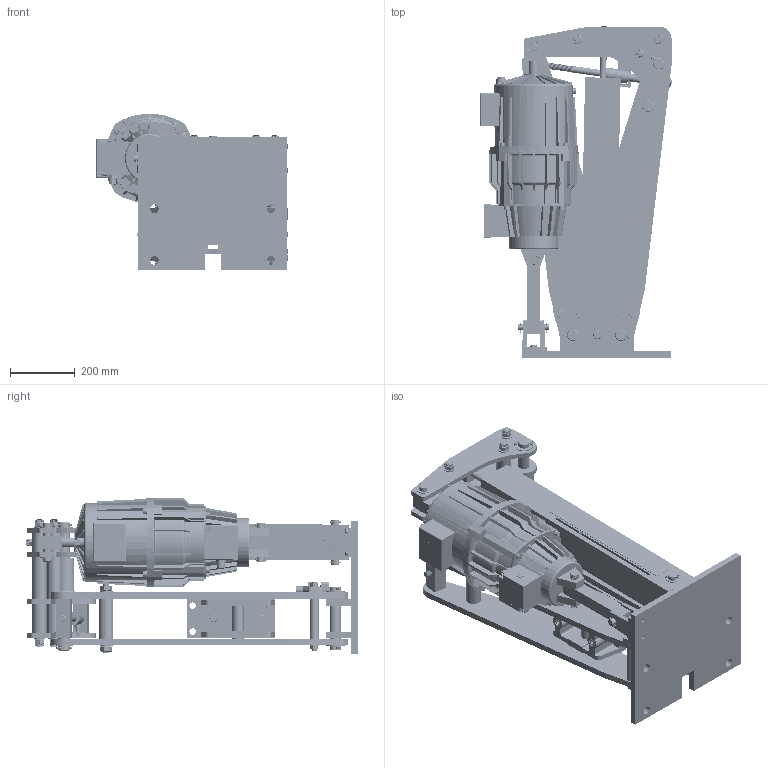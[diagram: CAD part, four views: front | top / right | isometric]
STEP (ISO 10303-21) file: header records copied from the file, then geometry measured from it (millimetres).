
FILE_DESCRIPTION((''),'2;1');
FILE_NAME('DS_370_FEX-45XL-30_ASM','2020-06-04T',('BOLS'),(''),'CREO PARAMETRIC BY PTC INC, 2018360','CREO PARAMETRIC BY PTC INC, 2018360','');
FILE_SCHEMA(('CONFIG_CONTROL_DESIGN'));
Products named in the file (86): DS370FEX-45XL-30_1_1_1; DS370FEX-45XL-30_1_2_1; DS370FEX-45XL-30_1_3_1; DS370FEX-45XL-30_1_4_1; DS370FEX-45XL-30_1_5_1; DS370FEX-45XL-30_1_6_1; DS370FEX-45XL-30_1_7_1; DS370FEX-45XL-30_1_8_1; DS370FEX-45XL-30_1_9_1; DS370FEX-45XL-30_1_10_1; DS370FEX-45XL-30_1_11_1; DS370FEX-45XL-30_1_12_1; DS370FEX-45XL-30_1_13_1; DS370FEX-45XL-30_1_14_1; DS370FEX-45XL-30_1_15_1; DS370FEX-45XL-30_1_16_1; DS370FEX-45XL-30_1_17_1; DS370FEX-45XL-30_1_18_1; DS370FEX-45XL-30_1_19_1; DS370FEX-45XL-30_1_20_1; DS370FEX-45XL-30_1_21_1; DS370FEX-45XL-30_1_22_1; DS370FEX-45XL-30_1_23_1; DS370FEX-45XL-30_1_24_1; DS370FEX-45XL-30_1_25_1; DS370FEX-45XL-30_1_26_1; DS370FEX-45XL-30_1_27_1; DS370FEX-45XL-30_1_28_1; DS370FEX-45XL-30_1_29_1; DS370FEX-45XL-30_1_30_1; DS370FEX-45XL-30_1_31_1; DS370FEX-45XL-30_1_32_1; DS370FEX-45XL-30_1_33_1; DS370FEX-45XL-30_1_34_1; DS370FEX-45XL-30_1_35_1; DS370FEX-45XL-30_1_36_1; DS370FEX-45XL-30_1_37_1; DS370FEX-45XL-30_1_38_1; DS370FEX-45XL-30_1_39_1; DS370FEX-45XL-30_1_40_1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
Assembly tree (85 placements, depth 4):
  DS_370_FEX-45XL-30_ASM
    DS370FEX-45XL-30_ASM_1_ASM
      DS370FEX-45XL-30_1_ASM_1_ASM
        DS370FEX-45XL-30_1_1_1
        DS370FEX-45XL-30_1_2_1
        DS370FEX-45XL-30_1_3_1
        DS370FEX-45XL-30_1_4_1
        DS370FEX-45XL-30_1_5_1
        DS370FEX-45XL-30_1_6_1
        DS370FEX-45XL-30_1_7_1
        DS370FEX-45XL-30_1_8_1
        DS370FEX-45XL-30_1_9_1
        DS370FEX-45XL-30_1_10_1
        DS370FEX-45XL-30_1_11_1
        DS370FEX-45XL-30_1_12_1
        DS370FEX-45XL-30_1_13_1
        DS370FEX-45XL-30_1_14_1
        DS370FEX-45XL-30_1_15_1
        DS370FEX-45XL-30_1_16_1
        DS370FEX-45XL-30_1_17_1
        DS370FEX-45XL-30_1_18_1
        DS370FEX-45XL-30_1_19_1
        DS370FEX-45XL-30_1_20_1
        DS370FEX-45XL-30_1_21_1
        DS370FEX-45XL-30_1_22_1
        DS370FEX-45XL-30_1_23_1
        DS370FEX-45XL-30_1_24_1
        DS370FEX-45XL-30_1_25_1
        DS370FEX-45XL-30_1_26_1
        DS370FEX-45XL-30_1_27_1
        DS370FEX-45XL-30_1_28_1
        DS370FEX-45XL-30_1_29_1
        DS370FEX-45XL-30_1_30_1
        DS370FEX-45XL-30_1_31_1
        DS370FEX-45XL-30_1_32_1
        DS370FEX-45XL-30_1_33_1
        DS370FEX-45XL-30_1_34_1
        DS370FEX-45XL-30_1_35_1
        DS370FEX-45XL-30_1_36_1
        DS370FEX-45XL-30_1_37_1
        DS370FEX-45XL-30_1_38_1
        DS370FEX-45XL-30_1_39_1
        DS370FEX-45XL-30_1_40_1
        DS370FEX-45XL-30_1_41_1
        DS370FEX-45XL-30_1_42_1
        DS370FEX-45XL-30_1_43_1
        DS370FEX-45XL-30_1_44_1
        DS370FEX-45XL-30_1_45_1
        DS370FEX-45XL-30_1_46_1
        DS370FEX-45XL-30_1_47_1
        DS370FEX-45XL-30_1_48_1
        DS370FEX-45XL-30_1_49_1
        DS370FEX-45XL-30_1_50_1
        DS370FEX-45XL-30_1_51_1
        DS370FEX-45XL-30_1_52_1
        DS370FEX-45XL-30_1_53_1
        DS370FEX-45XL-30_1_54_1
        DS370FEX-45XL-30_1_55_1
        DS370FEX-45XL-30_1_56_1
        DS370FEX-45XL-30_1_57_1
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Bounding box: 592.89 x 1024.41 x 483 mm (x, y, z)
Volume: 11942382.1 mm3; surface area: 5827627.6 mm2
Topology: 83 solids, 177 shells, 4521 faces, 11976 edges, 7557 vertices
Faces by surface type: plane 2008, cylinder 1436, cone 841, torus 232, sphere 4
Entity records: 235141 total; most frequent: CARTESIAN_POINT 52582, DIRECTION 24166, ORIENTED_EDGE 22963, PRESENTATION_STYLE_ASSIGNMENT 16607, STYLED_ITEM 16607, CURVE_STYLE 11951, EDGE_CURVE 11951, AXIS2_PLACEMENT_3D 9243
